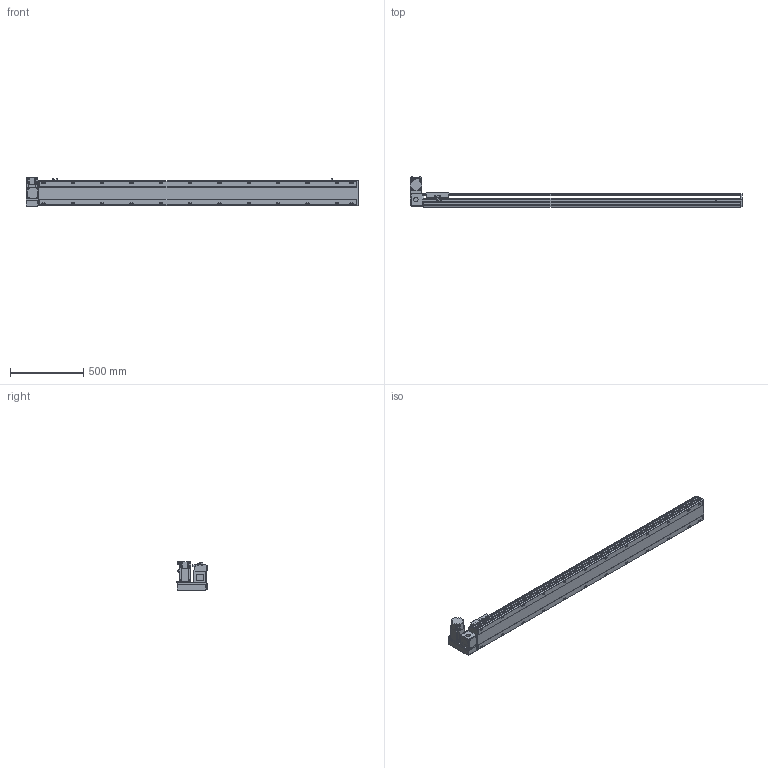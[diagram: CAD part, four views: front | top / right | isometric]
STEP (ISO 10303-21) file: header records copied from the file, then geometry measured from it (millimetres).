
FILE_DESCRIPTION( ( 'STEP AP214' ), '1' );
FILE_NAME( 'x:/temp/worker_4/temp/exporttempdir_2248_409_rwjPn/format_0/PBS170-P40-S1900-LU-T75-C1-N(0).stp', '2022-06-07T08:16:36', ( 'License CC BY-ND 4.0' ), ( 'CADENAS' ), ' ', 'PARTsolutions', ' ' );
FILE_SCHEMA( ( 'AUTOMOTIVE_DESIGN { 1 0 10303 214 1 1 1 1 }' ) );
Length unit declared in the file: millimetre
Products named in the file (7): PBS170-P40-S1900-LU-T75-C1-N(0); _PBS170-S1900()_body; _PBS170T-LU_motors; _T75-p1; _PBS170_sliser; _PBS170_plant; _PBS170_sensor
Assembly tree (8 placements, depth 2):
  PBS170-P40-S1900-LU-T75-C1-N(0)
    _PBS170-S1900()_body
    _PBS170T-LU_motors
    _T75-p1
    _PBS170_sliser
    _PBS170_plant
    _PBS170_sensor  x3
Bounding box: 2263 x 206 x 197.3 mm (x, y, z)
Volume: 17402113.4 mm3; surface area: 2214293.6 mm2
Topology: 8 solids, 8 shells, 1146 faces, 3035 edges, 1978 vertices
Faces by surface type: plane 711, cylinder 371, cone 54, sphere 8, torus 2
Full cylindrical faces by diameter (mm): 3.242 x4, 4 x2, 4.4 x4, 4.5 x6, 4.917 x4, 6 x9, 6.647 x32, 7 x2, 7.5 x4, 8 x8, 8.5 x24, 10 x4, 10.5 x24, 11 x2, 30 x2, 40 x1, 70 x1
Entity records: 42308 total; most frequent: CARTESIAN_POINT 6893, DIRECTION 5580, ORIENTED_EDGE 5268, EDGE_CURVE 2634, AXIS2_PLACEMENT_3D 1957, VERTEX_POINT 1826, LINE 1666, VECTOR 1666
